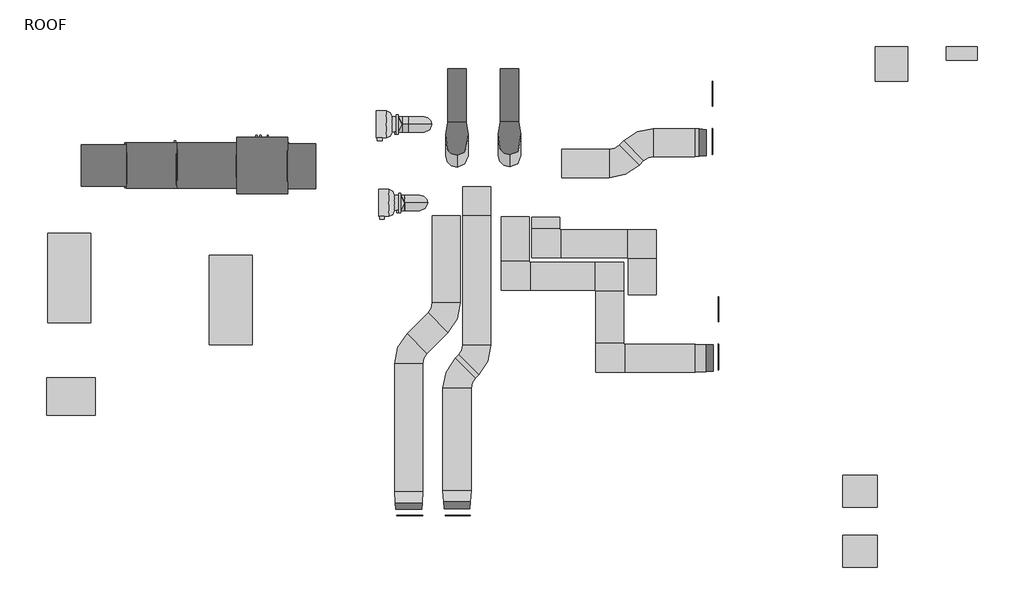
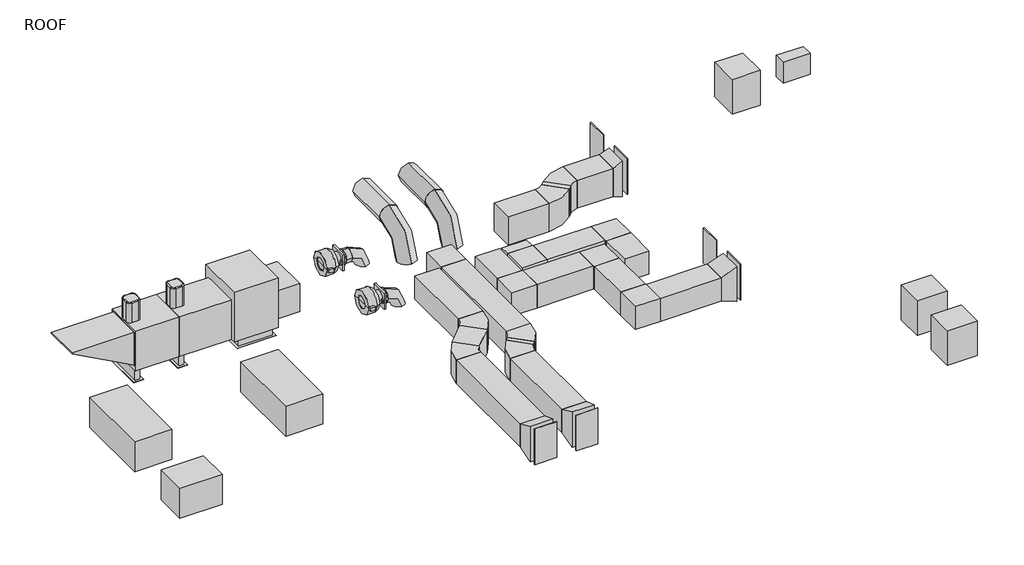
# One storey, incomplete: 30 duct fittings, 21 duct segments, 10 proxies.
"""IFC4 building model written with IfcOpenShell, lengths in millimetres."""

from ifc_helpers import new_model, si_unit, point, frame, frame_2d, origin, place, context, project, spatial, polyline, circle_curve, trimmed, segment, composite_curve, outline, extrude, transform, mapped, element, save
from components import mechanical_equipment_ae1ff904, mechanical_equipment_35da103f, mechanical_equipment_48eabea2, mechanical_equipment_9c06255b, mechanical_equipment_c8a8b973, proxy_50l_705_2dea56ad, rectangular_elbow_mitered_standard_6dab44a9, rectangular_elbow_radius_1_w_3c7c7018, rectangular_elbow_radius_1_w_218a5dfe, rectangular_transition_angle_45_degree_4fa393de, rectangular_transition_angle_45_degree_b09042f5, rectangular_transition_angle_45_degree_d7e84c4c, rectangular_transition_angle_45_degree_6e3a2386, rectangular_transition_angle_45_degree_c59788f5, rectangular_to_round_transition_angle_45_degree_81fe0fb5, round_elbow_1_d_b161354f, round_elbow_1_5_d_15854769, round_transition_angle_45_degree_63b79cef

model = new_model("IFC4")

# Units and contexts
model_context = context("Model", 3, world=origin())
ifc_project = project(units=[si_unit("LENGTHUNIT", "METRE", prefix="MILLI")], contexts=[model_context])

# Site, building, storey
site = spatial("IfcSite", under=ifc_project)
building = spatial("IfcBuilding", under=site)
storey = spatial("IfcBuildingStorey", under=building, Name="ROOF", Elevation=13106.4)

# Proxies
placement = place(None, origin())
mechanical_equipment_shape = mechanical_equipment_ae1ff904(model_context)
element("IfcBuildingElementProxy", 1, Name="CU - Trane - 10 Ton : CU - Trane - 10 Ton", ObjectType="CU - Trane - 10 Ton : CU - Trane - 10 Ton", at=placement, inside=storey, context=model_context, shape_type="MappedRepresentation", body=[
    mapped(mechanical_equipment_shape, transform((7390.4573033, 16492.6089798, 13106.4), x_axis=(0.0, 1.0, 0.0), y_axis=(-1.0, 0.0, 0.0), z_axis=(0.0, 0.0, 1.0))),
])
mechanical_equipment_2_shape = mechanical_equipment_35da103f(model_context)
element("IfcBuildingElementProxy", 2, Name="CU - Trane - 15-20 Ton : CU - Trane - 15-20 Ton", ObjectType="CU - Trane - 15-20 Ton : CU - Trane - 15-20 Ton", at=placement, inside=storey, context=model_context, shape_type="MappedRepresentation", body=[
    mapped(mechanical_equipment_2_shape, transform((11726.9880843, 19112.376747, 13106.4), x_axis=(1.0, 0.0, 0.0), y_axis=(0.0, 1.0, 0.0), z_axis=(0.0, 0.0, 1.0))),
])
element("IfcBuildingElementProxy", 3, Name="HP - Trane - 15-20 Ton : HP - Trane - 15-20 Ton", ObjectType="HP - Trane - 15-20 Ton : HP - Trane - 15-20 Ton", at=placement, inside=storey, context=model_context, shape_type="MappedRepresentation", body=[
    mapped(mechanical_equipment_2_shape, transform((7351.2740617, 19708.9402261, 13106.4), x_axis=(1.0, 0.0, 0.0), y_axis=(0.0, 1.0, 0.0), z_axis=(0.0, 0.0, 1.0))),
])
mechanical_equipment_3_shape = mechanical_equipment_48eabea2(model_context)
element("IfcBuildingElementProxy", 4, Name="HP - Trane - 4TWR5 : HP - Trane - 4TWR5", ObjectType="HP - Trane - 4TWR5 : HP - Trane - 4TWR5", at=placement, inside=storey, context=model_context, shape_type="MappedRepresentation", body=[
    mapped(mechanical_equipment_3_shape, transform((28805.4907802, 12287.5812077, 13103.225), x_axis=(1.0, 0.0, 0.0), y_axis=(0.0, 1.0, 0.0), z_axis=(0.0, 0.0, 1.0))),
])
element("IfcBuildingElementProxy", 5, Name="HP - Trane - 4TWR5 : HP - Trane - 4TWR5", ObjectType="HP - Trane - 4TWR5 : HP - Trane - 4TWR5", at=placement, inside=storey, context=model_context, shape_type="MappedRepresentation", body=[
    mapped(mechanical_equipment_3_shape, transform((28805.4907802, 13912.9500946, 13103.225), x_axis=(1.0, 0.0, 0.0), y_axis=(0.0, 1.0, 0.0), z_axis=(0.0, 0.0, 1.0))),
])
element("IfcBuildingElementProxy", 6, Name="HP - Trane - 4TWR5 : HP - Trane - 4TWR5", ObjectType="HP - Trane - 4TWR5 : HP - Trane - 4TWR5", at=placement, inside=storey, context=model_context, shape_type="MappedRepresentation", body=[
    mapped(mechanical_equipment_3_shape, transform((29662.1572413, 25514.2271337, 13103.225), x_axis=(0.0, -1.0, 0.0), y_axis=(1.0, 0.0, 0.0), z_axis=(0.0, 0.0, 1.0))),
])
mechanical_equipment_4_shape = mechanical_equipment_9c06255b(model_context)
element("IfcBuildingElementProxy", 7, Name="HP -SZ1H18D : HP -SZ1H18D", ObjectType="HP -SZ1H18D : HP -SZ1H18D", at=placement, inside=storey, context=model_context, shape_type="MappedRepresentation", body=[
    mapped(mechanical_equipment_4_shape, transform((31572.2, 25800.05, 13103.225), x_axis=(1.0, 0.0, 0.0), y_axis=(0.0, 1.0, 0.0), z_axis=(0.0, 0.0, 1.0))),
])
mechanical_equipment_5_shape = mechanical_equipment_c8a8b973(model_context)
element("IfcBuildingElementProxy", 8, Name="Heater-Direct_Fired_Packaged_Unit-CaptiveAire-Side_Discharge-Cooling_Coil : IHVBDFSAHCC-MPU_D.1000-920", ObjectType="Heater-Direct_Fired_Packaged_Unit-CaptiveAire-Side_Discharge-Cooling_Coil : IHVBDFSAHCC-MPU_D.1000-920", at=placement, inside=storey, context=model_context, shape_type="MappedRepresentation", body=[
    mapped(mechanical_equipment_5_shape, transform((10265.6655922, 22762.1872294, 13106.4), x_axis=(-1.0000000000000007, 0.0, 0.0), y_axis=(0.0, -1.000000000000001, 0.0), z_axis=(0.0, 0.0, 1.0000000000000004))),
])
proxy_50l_705_shape = proxy_50l_705_2dea56ad(model_context)
element("IfcBuildingElementProxy", 9, Name="Fan-Exhaust-CaptiveAire-Centrifugal_Upblast-Direct_Drive : 50L-705", ObjectType="Fan-Exhaust-CaptiveAire-Centrifugal_Upblast-Direct_Drive : 50L-705", at=placement, inside=storey, context=model_context, shape_type="MappedRepresentation", body=[
    mapped(proxy_50l_705_shape, transform((16231.1019459, 23975.0581183, 13608.05), x_axis=(0.0, 0.0, 1.0000000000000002), y_axis=(0.0, 1.0000000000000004, 0.0), z_axis=(-1.0000000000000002, 0.0, 0.0))),
])
element("IfcBuildingElementProxy", 10, Name="Fan-Exhaust-CaptiveAire-Centrifugal_Upblast-Direct_Drive : 50L-705", ObjectType="Fan-Exhaust-CaptiveAire-Centrifugal_Upblast-Direct_Drive : 50L-705", at=placement, inside=storey, context=model_context, shape_type="MappedRepresentation", body=[
    mapped(proxy_50l_705_shape, transform((16294.0223048, 21843.7524801, 13608.05), x_axis=(0.0, 0.0, 1.0000000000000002), y_axis=(0.0, 1.0000000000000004, 0.0), z_axis=(-1.0000000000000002, 0.0, 0.0))),
])

# Duct fittings
rectangular_elbow_mitered_standard_shape = rectangular_elbow_mitered_standard_6dab44a9(model_context)
element("IfcDuctFitting", 11, ObjectType="Rectangular Elbow - Mitered : Standard", at=placement, inside=storey, context=model_context, shape_type="MappedRepresentation", body=[
    mapped(rectangular_elbow_mitered_standard_shape, transform((22899.2550842, 20640.0328579, 13798.55), x_axis=(0.0, 1.0, 0.0), y_axis=(-1.0, 0.0, 0.0), z_axis=(0.0, 0.0, 1.0))),
])
element("IfcDuctFitting", 12, ObjectType="Rectangular Elbow - Mitered : Standard", at=placement, inside=storey, context=model_context, shape_type="MappedRepresentation", body=[
    mapped(rectangular_elbow_mitered_standard_shape, transform((22020.840723, 17533.0181136, 13798.55), x_axis=(0.0, -1.0, 0.0), y_axis=(1.0, 0.0, 0.0), z_axis=(0.0, 0.0, 1.0))),
])
element("IfcDuctFitting", 13, ObjectType="Rectangular Elbow - Mitered : Standard", at=placement, inside=storey, context=model_context, shape_type="MappedRepresentation", body=[
    mapped(rectangular_elbow_mitered_standard_shape, transform((22020.840723, 19758.921102, 13798.55), x_axis=(0.0, 1.0, 0.0), y_axis=(-1.0, 0.0, 0.0), z_axis=(0.0, 0.0, 1.0))),
])
element("IfcDuctFitting", 14, ObjectType="Rectangular Elbow - Mitered : Standard", at=placement, inside=storey, context=model_context, shape_type="MappedRepresentation", body=[
    mapped(rectangular_elbow_mitered_standard_shape, transform((20282.0928767, 20640.0328579, 13798.55), x_axis=(0.0, -1.0, 0.0), y_axis=(1.0, 0.0, 0.0), z_axis=(0.0, 0.0, 1.0))),
])
element("IfcDuctFitting", 15, ObjectType="Rectangular Elbow - Mitered : Standard", at=placement, inside=storey, context=model_context, shape_type="MappedRepresentation", body=[
    mapped(rectangular_elbow_mitered_standard_shape, transform((19449.8841871, 19758.921102, 13798.55), x_axis=(0.0, -1.0, 0.0), y_axis=(1.0, 0.0, 0.0), z_axis=(0.0, 0.0, 1.0))),
])
element("IfcDuctFitting", 16, ObjectType="Rectangular Elbow - Mitered : Standard", at=placement, inside=storey, context=model_context, shape_type="MappedRepresentation", body=[
    mapped(rectangular_elbow_mitered_standard_shape, transform((18409.4301182, 21795.293068, 13798.55), x_axis=(0.0, 1.0, 0.0), y_axis=(0.0, 0.0, -1.0), z_axis=(-1.0, 0.0, 0.0))),
])
rectangular_elbow_radius_1_w_shape = rectangular_elbow_radius_1_w_3c7c7018(model_context)
element("IfcDuctFitting", 17, ObjectType="Rectangular Elbow - Radius : 1 W", at=placement, inside=storey, context=model_context, shape_type="MappedRepresentation", body=[
    mapped(rectangular_elbow_radius_1_w_shape, transform((22885.1212073, 23379.6715494, 13798.55), x_axis=(-1.0, 0.0, 0.0), y_axis=(0.0, -1.0, 0.0), z_axis=(0.0, 0.0, 1.0))),
])
element("IfcDuctFitting", 18, ObjectType="Rectangular Elbow - Radius : 1 W", at=placement, inside=storey, context=model_context, shape_type="MappedRepresentation", body=[
    mapped(rectangular_elbow_radius_1_w_shape, transform((22319.7674323, 22814.3177743, 13798.55), x_axis=(1.0, 0.0, 0.0), y_axis=(0.0, 1.0, 0.0), z_axis=(0.0, 0.0, 1.0))),
])
rectangular_elbow_radius_1_w_2_shape = rectangular_elbow_radius_1_w_218a5dfe(model_context)
element("IfcDuctFitting", 19, ObjectType="Rectangular Elbow - Radius : 1 W", at=placement, inside=storey, context=model_context, shape_type="MappedRepresentation", body=[
    mapped(rectangular_elbow_radius_1_w_2_shape, transform((16561.4453378, 17699.4638218, 13798.55), x_axis=(-0.7071067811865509, -0.7071067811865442, 0.0), y_axis=(0.7071067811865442, -0.7071067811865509, 0.0), z_axis=(0.0, 0.0, 1.0))),
])
element("IfcDuctFitting", 20, ObjectType="Rectangular Elbow - Radius : 1 W", at=placement, inside=storey, context=model_context, shape_type="MappedRepresentation", body=[
    mapped(rectangular_elbow_radius_1_w_2_shape, transform((17870.6147509, 17032.9744471, 13798.55), x_axis=(-0.7071067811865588, -0.7071067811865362, 0.0), y_axis=(0.7071067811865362, -0.7071067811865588, 0.0), z_axis=(0.0, 0.0, 1.0))),
])
element("IfcDuctFitting", 21, ObjectType="Rectangular Elbow - Radius : 1 W", at=placement, inside=storey, context=model_context, shape_type="MappedRepresentation", body=[
    mapped(rectangular_elbow_radius_1_w_2_shape, transform((18409.4301182, 17571.7898144, 13798.55), x_axis=(0.7071067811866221, 0.7071067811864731, 0.0), y_axis=(-0.7071067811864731, 0.7071067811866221, 0.0), z_axis=(0.0, 0.0, 1.0))),
])
element("IfcDuctFitting", 22, ObjectType="Rectangular Elbow - Radius : 1 W", at=placement, inside=storey, context=model_context, shape_type="MappedRepresentation", body=[
    mapped(rectangular_elbow_radius_1_w_2_shape, transform((17579.5449279, 18717.563412, 13798.55), x_axis=(0.7071067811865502, 0.7071067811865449, 0.0), y_axis=(-0.7071067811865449, 0.7071067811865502, 0.0), z_axis=(0.0, 0.0, 1.0))),
])
rectangular_transition_angle_45_degree_shape = rectangular_transition_angle_45_degree_4fa393de(model_context)
element("IfcDuctFitting", 23, ObjectType="Rectangular Transition - Angle : 45 Degree", at=placement, inside=storey, context=model_context, shape_type="MappedRepresentation", body=[
    mapped(rectangular_transition_angle_45_degree_shape, transform((24815.7833087, 24706.8215494, 13792.99375), x_axis=(-1.0, 0.0, 0.0), y_axis=(0.0, -1.0, 0.0), z_axis=(0.0, 0.0, 1.0))),
])
element("IfcDuctFitting", 24, ObjectType="Rectangular Transition - Angle : 45 Degree", at=placement, inside=storey, context=model_context, shape_type="MappedRepresentation", body=[
    mapped(rectangular_transition_angle_45_degree_shape, transform((24973.5179241, 18860.1681136, 13792.99375), x_axis=(-1.0, 0.0, 0.0), y_axis=(0.0, -1.0, 0.0), z_axis=(0.0, 0.0, 1.0))),
])
element("IfcDuctFitting", 25, ObjectType="Rectangular Transition - Angle : 45 Degree", at=placement, inside=storey, context=model_context, shape_type="MappedRepresentation", body=[
    mapped(rectangular_transition_angle_45_degree_shape, transform((17888.5953378, 13254.0043808, 13792.99375), x_axis=(0.0, 1.0, 0.0), y_axis=(-1.0, 0.0, 0.0), z_axis=(0.0, 0.0, 1.0))),
])
rectangular_transition_angle_45_degree_2_shape = rectangular_transition_angle_45_degree_b09042f5(model_context)
element("IfcDuctFitting", 26, ObjectType="Rectangular Transition - Angle : 45 Degree", at=placement, inside=storey, context=model_context, shape_type="MappedRepresentation", body=[
    mapped(rectangular_transition_angle_45_degree_2_shape, transform((24815.7833087, 23409.0402994, 13792.99375), x_axis=(-1.0, 0.0, 0.0), y_axis=(0.0, -1.0, 0.0), z_axis=(0.0, 0.0, 1.0))),
])
element("IfcDuctFitting", 27, ObjectType="Rectangular Transition - Angle : 45 Degree", at=placement, inside=storey, context=model_context, shape_type="MappedRepresentation", body=[
    mapped(rectangular_transition_angle_45_degree_2_shape, transform((24973.5179241, 17562.3868636, 13792.99375), x_axis=(-1.0, 0.0, 0.0), y_axis=(0.0, -1.0, 0.0), z_axis=(0.0, 0.0, 1.0))),
])
element("IfcDuctFitting", 28, ObjectType="Rectangular Transition - Angle : 45 Degree", at=placement, inside=storey, context=model_context, shape_type="MappedRepresentation", body=[
    mapped(rectangular_transition_angle_45_degree_2_shape, transform((16590.8140878, 13254.0043808, 13792.99375), x_axis=(0.0, 1.0, 0.0), y_axis=(-1.0, 0.0, 0.0), z_axis=(0.0, 0.0, 1.0))),
])
rectangular_transition_angle_45_degree_3_shape = rectangular_transition_angle_45_degree_d7e84c4c(model_context)
element("IfcDuctFitting", 29, ObjectType="Rectangular Transition - Angle : 45 Degree", at=placement, inside=storey, context=model_context, shape_type="MappedRepresentation", body=[
    mapped(rectangular_transition_angle_45_degree_3_shape, transform((24330.2789596, 17533.0181136, 13798.55), x_axis=(1.0, 0.0, 0.0), y_axis=(0.0, 1.0, 0.0), z_axis=(0.0, 0.0, 1.0))),
])
element("IfcDuctFitting", 30, ObjectType="Rectangular Transition - Angle : 45 Degree", at=placement, inside=storey, context=model_context, shape_type="MappedRepresentation", body=[
    mapped(rectangular_transition_angle_45_degree_3_shape, transform((16561.4453378, 13914.8638218, 13798.55), x_axis=(0.0, -1.0, 0.0), y_axis=(1.0, 0.0, 0.0), z_axis=(0.0, 0.0, 1.0))),
])
rectangular_transition_angle_45_degree_4_shape = rectangular_transition_angle_45_degree_6e3a2386(model_context)
element("IfcDuctFitting", 31, ObjectType="Rectangular Transition - Angle : 45 Degree", at=placement, inside=storey, context=model_context, shape_type="MappedRepresentation", body=[
    mapped(rectangular_transition_angle_45_degree_4_shape, transform((17870.6147509, 13934.1744471, 13798.55), x_axis=(0.0, -1.0, 0.0), y_axis=(1.0, 0.0, 0.0), z_axis=(0.0, 0.0, 1.0))),
])
rectangular_transition_angle_45_degree_5_shape = rectangular_transition_angle_45_degree_c59788f5(model_context)
element("IfcDuctFitting", 32, ObjectType="Rectangular Transition - Angle : 45 Degree", at=placement, inside=storey, context=model_context, shape_type="MappedRepresentation", body=[
    mapped(rectangular_transition_angle_45_degree_5_shape, transform((24324.9443442, 23379.6715494, 13798.55), x_axis=(1.0, 0.0, 0.0), y_axis=(0.0, 1.0, 0.0), z_axis=(0.0, 0.0, 1.0))),
])
rectangular_to_round_transition_angle_45_degree_shape = rectangular_to_round_transition_angle_45_degree_81fe0fb5(model_context)
element("IfcDuctFitting", 33, ObjectType="Rectangular to Round Transition - Angle : 45 Degree", at=placement, inside=storey, context=model_context, shape_type="MappedRepresentation", body=[
    mapped(rectangular_to_round_transition_angle_45_degree_shape, transform((16344.8223048, 21742.1524801, 13608.05), x_axis=(1.0, 0.0, 0.0), y_axis=(0.0, 1.0, 0.0), z_axis=(0.0, 0.0, 1.0))),
])
element("IfcDuctFitting", 34, ObjectType="Rectangular to Round Transition - Angle : 45 Degree", at=placement, inside=storey, context=model_context, shape_type="MappedRepresentation", body=[
    mapped(rectangular_to_round_transition_angle_45_degree_shape, transform((16281.9019459, 23873.4581183, 13608.05), x_axis=(1.0, 0.0, 0.0), y_axis=(0.0, 1.0, 0.0), z_axis=(0.0, 0.0, 1.0))),
])
round_elbow_1_d_shape = round_elbow_1_d_b161354f(model_context)
element("IfcDuctFitting", 35, ObjectType="Round Elbow : 1 D", at=placement, inside=storey, context=model_context, shape_type="MappedRepresentation", body=[
    mapped(round_elbow_1_d_shape, transform((16864.6333005, 21742.1524801, 13608.05), x_axis=(0.0, 0.0, 1.0), y_axis=(-1.0, 0.0, 0.0), z_axis=(0.0, -1.0, 0.0))),
])
element("IfcDuctFitting", 36, ObjectType="Round Elbow : 1 D", at=placement, inside=storey, context=model_context, shape_type="MappedRepresentation", body=[
    mapped(round_elbow_1_d_shape, transform((16978.9333005, 23873.4581183, 13608.05), x_axis=(0.0, 0.0, 1.0), y_axis=(-1.0, 0.0, 0.0), z_axis=(0.0, -1.0, 0.0))),
])
round_elbow_1_5_d_shape = round_elbow_1_5_d_15854769(model_context)
element("IfcDuctFitting", 37, ObjectType="Round Elbow : 1.5 D", at=placement, inside=storey, context=model_context, shape_type="MappedRepresentation", body=[
    mapped(round_elbow_1_5_d_shape, transform((17870.4478422, 23020.0042983, 14446.25), x_axis=(0.0, -1.0, 0.0), y_axis=(0.0, 0.0, -1.0), z_axis=(1.0, 0.0, 0.0))),
])
element("IfcDuctFitting", 38, ObjectType="Round Elbow : 1.5 D", at=placement, inside=storey, context=model_context, shape_type="MappedRepresentation", body=[
    mapped(round_elbow_1_5_d_shape, transform((19297.1535131, 23027.9919267, 14446.25), x_axis=(0.0, -1.0, 0.0), y_axis=(0.0, 0.0, -1.0), z_axis=(1.0, 0.0, 0.0))),
])
round_transition_angle_45_degree_shape = round_transition_angle_45_degree_63b79cef(model_context)
element("IfcDuctFitting", 39, ObjectType="Round Transition - Angle : 45 Degree", at=placement, inside=storey, context=model_context, shape_type="MappedRepresentation", body=[
    mapped(round_transition_angle_45_degree_shape, transform((17870.4478422, 23945.9019904, 14446.25), x_axis=(0.0, -1.0, 0.0), y_axis=(1.0, 0.0, 0.0), z_axis=(0.0, 0.0, 1.0))),
])
element("IfcDuctFitting", 40, ObjectType="Round Transition - Angle : 45 Degree", at=placement, inside=storey, context=model_context, shape_type="MappedRepresentation", body=[
    mapped(round_transition_angle_45_degree_shape, transform((19297.1535131, 23953.8896188, 14446.25), x_axis=(0.0, -1.0, 0.0), y_axis=(1.0, 0.0, 0.0), z_axis=(0.0, 0.0, 1.0))),
])

# Duct segments
element("IfcDuctSegment", 41, ObjectType="Mitered Elbows / Taps", at=placement, inside=storey, context=model_context, shape_type="SweptSolid", body=[
    extrude(outline(polyline([(24324.9443442, 23760.6715494), (24324.9443442, 22998.6715494), (23200.7519418, 22998.6715494), (23200.7519418, 23760.6715494), (24324.9443442, 23760.6715494)])), frame((0.0, 0.0, 13341.35), z_axis=(0.0, 0.0, 1.0), x_axis=(1.0, 0.0, 0.0)), (0.0, 0.0, 1.0), 914.4),
])
element("IfcDuctSegment", 42, ObjectType="Mitered Elbows / Taps", at=placement, inside=storey, context=model_context, shape_type="SweptSolid", body=[
    extrude(outline(polyline([(20718.4440695, 22433.3177743), (20718.4440695, 23195.3177743), (22004.1366977, 23195.3177743), (22004.1366977, 22433.3177743), (20718.4440695, 22433.3177743)])), frame((0.0, 0.0, 13341.35), z_axis=(0.0, 0.0, 1.0), x_axis=(1.0, 0.0, 0.0)), (0.0, 0.0, 1.0), 914.4),
])
element("IfcDuctSegment", 43, ObjectType="Mitered Elbows / Taps", at=placement, inside=storey, context=model_context, shape_type="SweptSolid", body=[
    extrude(outline(polyline([(22392.5288909, 23425.8946002), (22931.3442582, 22887.079233), (22812.3597486, 22768.0947234), (22273.5443814, 23306.9100907), (22392.5288909, 23425.8946002)])), frame((0.0, 0.0, 13341.35), z_axis=(0.0, 0.0, 1.0), x_axis=(1.0, 0.0, 0.0)), (0.0, 0.0, 1.0), 914.4),
])
element("IfcDuctSegment", 44, ObjectType="Mitered Elbows / Taps", at=placement, inside=storey, context=model_context, shape_type="SweptSolid", body=[
    extrude(outline(polyline([(23280.2550842, 19250.6931136), (22518.2550842, 19250.6931136), (22518.2550842, 20233.6328579), (23280.2550842, 20233.6328579), (23280.2550842, 19250.6931136)])), frame((0.0, 0.0, 13417.55), z_axis=(0.0, 0.0, 1.0), x_axis=(1.0, 0.0, 0.0)), (0.0, 0.0, 1.0), 762.0),
])
element("IfcDuctSegment", 45, ObjectType="Mitered Elbows / Taps", at=placement, inside=storey, context=model_context, shape_type="SweptSolid", body=[
    extrude(outline(polyline([(22492.8550842, 21021.0328579), (22492.8550842, 20259.0328579), (20688.4928767, 20259.0328579), (20688.4928767, 21021.0328579), (22492.8550842, 21021.0328579)])), frame((0.0, 0.0, 13417.55), z_axis=(0.0, 0.0, 1.0), x_axis=(1.0, 0.0, 0.0)), (0.0, 0.0, 1.0), 762.0),
])
element("IfcDuctSegment", 46, ObjectType="Mitered Elbows / Taps", at=placement, inside=storey, context=model_context, shape_type="SweptSolid", body=[
    extrude(outline(polyline([(19901.0928767, 21359.494536), (20663.0928767, 21359.494536), (20663.0928767, 21046.4328579), (19901.0928767, 21046.4328579), (19901.0928767, 21359.494536)])), frame((0.0, 0.0, 13417.55), z_axis=(0.0, 0.0, 1.0), x_axis=(1.0, 0.0, 0.0)), (0.0, 0.0, 1.0), 762.0),
])
element("IfcDuctSegment", 47, ObjectType="Mitered Elbows / Taps", at=placement, inside=storey, context=model_context, shape_type="SweptSolid", body=[
    extrude(outline(polyline([(24330.2789596, 17914.0181136), (24330.2789596, 17152.0181136), (22427.240723, 17152.0181136), (22427.240723, 17914.0181136), (24330.2789596, 17914.0181136)])), frame((0.0, 0.0, 13417.55), z_axis=(0.0, 0.0, 1.0), x_axis=(1.0, 0.0, 0.0)), (0.0, 0.0, 1.0), 762.0),
])
element("IfcDuctSegment", 48, ObjectType="Mitered Elbows / Taps", at=placement, inside=storey, context=model_context, shape_type="SweptSolid", body=[
    extrude(outline(polyline([(22401.840723, 17939.4181136), (21639.840723, 17939.4181136), (21639.840723, 19352.521102), (22401.840723, 19352.521102), (22401.840723, 17939.4181136)])), frame((0.0, 0.0, 13417.55), z_axis=(0.0, 0.0, 1.0), x_axis=(1.0, 0.0, 0.0)), (0.0, 0.0, 1.0), 762.0),
])
element("IfcDuctSegment", 49, ObjectType="Mitered Elbows / Taps", at=placement, inside=storey, context=model_context, shape_type="SweptSolid", body=[
    extrude(outline(polyline([(21614.440723, 20139.921102), (21614.440723, 19377.921102), (19856.2841871, 19377.921102), (19856.2841871, 20139.921102), (21614.440723, 20139.921102)])), frame((0.0, 0.0, 13417.55), z_axis=(0.0, 0.0, 1.0), x_axis=(1.0, 0.0, 0.0)), (0.0, 0.0, 1.0), 762.0),
])
element("IfcDuctSegment", 50, ObjectType="Mitered Elbows / Taps", at=placement, inside=storey, context=model_context, shape_type="SweptSolid", body=[
    extrude(outline(polyline([(19068.8841871, 21367.1073473), (19830.8841871, 21367.1073473), (19830.8841871, 20165.321102), (19068.8841871, 20165.321102), (19068.8841871, 21367.1073473)])), frame((0.0, 0.0, 13417.55), z_axis=(0.0, 0.0, 1.0), x_axis=(1.0, 0.0, 0.0)), (0.0, 0.0, 1.0), 762.0),
])
element("IfcDuctSegment", 51, ObjectType="Mitered Elbows / Taps", at=placement, inside=storey, context=model_context, shape_type="SweptSolid", body=[
    extrude(outline(polyline([(17198.5449279, 21396.5058793), (17960.5449279, 21396.5058793), (17960.5449279, 19033.1941465), (17198.5449279, 19033.1941465), (17198.5449279, 21396.5058793)])), frame((0.0, 0.0, 13417.55), z_axis=(0.0, 0.0, 1.0), x_axis=(1.0, 0.0, 0.0)), (0.0, 0.0, 1.0), 762.0),
])
element("IfcDuctSegment", 52, ObjectType="Mitered Elbows / Taps", at=placement, inside=storey, context=model_context, shape_type="SweptSolid", body=[
    extrude(outline(polyline([(17086.9526116, 18763.7864629), (17625.7679788, 18224.9710956), (17054.0376542, 17653.2407709), (16515.2222869, 18192.0561382), (17086.9526116, 18763.7864629)])), frame((0.0, 0.0, 13417.55), z_axis=(0.0, 0.0, 1.0), x_axis=(1.0, 0.0, 0.0)), (0.0, 0.0, 1.0), 762.0),
])
element("IfcDuctSegment", 53, ObjectType="Mitered Elbows / Taps", at=placement, inside=storey, context=model_context, shape_type="SweptSolid", body=[
    extrude(outline(polyline([(16180.4453378, 17383.8330873), (16942.4453378, 17383.8330873), (16942.4453378, 13914.8638218), (16180.4453378, 13914.8638218), (16180.4453378, 17383.8330873)])), frame((0.0, 0.0, 13417.55), z_axis=(0.0, 0.0, 1.0), x_axis=(1.0, 0.0, 0.0)), (0.0, 0.0, 1.0), 762.0),
])
element("IfcDuctSegment", 54, ObjectType="Mitered Elbows / Taps", at=placement, inside=storey, context=model_context, shape_type="SweptSolid", body=[
    extrude(outline(polyline([(18028.4301182, 21388.893068), (18790.4301182, 21388.893068), (18790.4301182, 17887.4205489), (18028.4301182, 17887.4205489), (18028.4301182, 21388.893068)])), frame((0.0, 0.0, 13417.55), z_axis=(0.0, 0.0, 1.0), x_axis=(1.0, 0.0, 0.0)), (0.0, 0.0, 1.0), 762.0),
])
element("IfcDuctSegment", 55, ObjectType="Mitered Elbows / Taps", at=placement, inside=storey, context=model_context, shape_type="SweptSolid", body=[
    extrude(outline(polyline([(17916.8378018, 17618.0128653), (18455.6531691, 17079.197498), (18363.2070673, 16986.7513963), (17824.3917, 17525.5667635), (17916.8378018, 17618.0128653)])), frame((0.0, 0.0, 13417.55), z_axis=(0.0, 0.0, 1.0), x_axis=(1.0, 0.0, 0.0)), (0.0, 0.0, 1.0), 762.0),
])
element("IfcDuctSegment", 56, ObjectType="Mitered Elbows / Taps", at=placement, inside=storey, context=model_context, shape_type="SweptSolid", body=[
    extrude(outline(polyline([(17489.6147509, 16717.3437126), (18251.6147509, 16717.3437126), (18251.6147509, 13934.1744471), (17489.6147509, 13934.1744471), (17489.6147509, 16717.3437126)])), frame((0.0, 0.0, 13417.55), z_axis=(0.0, 0.0, 1.0), x_axis=(1.0, 0.0, 0.0)), (0.0, 0.0, 1.0), 762.0),
])
element("IfcDuctSegment", 57, ObjectType="Mitered Elbows / Taps", at=placement, inside=storey, context=model_context, shape_type="SweptSolid", body=[
    extrude(outline(polyline([(13272.3905922, 22133.5372294), (13272.3905922, 23352.7372294), (14034.3905922, 23352.7372294), (14034.3905922, 22133.5372294), (13272.3905922, 22133.5372294)])), frame((0.0, 0.0, 13668.375), z_axis=(0.0, 0.0, 1.0), x_axis=(1.0, 0.0, 0.0)), (0.0, 0.0, 1.0), 914.4),
])
element("IfcDuctSegment", 58, ObjectType="Taps", at=placement, inside=storey, context=model_context, shape_type="SweptSolid", body=[
    extrude(outline(composite_curve([segment(trimmed(circle_curve(frame_2d((14446.25, 17870.4478422)), 309.5625), [point((14446.25, 18180.0103422))], [point((14755.8125, 17870.4478422))], False, "CARTESIAN"), True, "CONTINUOUS"), segment(trimmed(circle_curve(frame_2d((14446.25, 17870.4478422)), 309.5625), [point((14755.8125, 17870.4478422))], [point((14446.25, 17560.8853422))], False, "CARTESIAN"), True, "CONTINUOUS"), segment(trimmed(circle_curve(frame_2d((14446.25, 17870.4478422)), 309.5625), [point((14446.25, 17560.8853422))], [point((14136.6875, 17870.4478422))], False, "CARTESIAN"), True, "CONTINUOUS"), segment(trimmed(circle_curve(frame_2d((14446.25, 17870.4478422)), 309.5625), [point((14136.6875, 17870.4478422))], [point((14446.25, 18180.0103422))], False, "CARTESIAN"), True, "CONTINUOUS")], self_intersect=False)), frame((0.0, 23945.9019904, 0.0), z_axis=(0.0, 1.0, 0.0), x_axis=(0.0, 0.0, 1.0)), (0.0, 0.0, 1.0), 1437.9399364),
])
element("IfcDuctSegment", 59, ObjectType="Taps", at=placement, inside=storey, context=model_context, shape_type="SweptSolid", body=[
    extrude(outline(composite_curve([segment(trimmed(circle_curve(frame_2d((14446.25, 19297.1535131)), 309.5625), [point((14446.25, 18987.5910131))], [point((14136.6875, 19297.1535131))], False, "CARTESIAN"), True, "CONTINUOUS"), segment(trimmed(circle_curve(frame_2d((14446.25, 19297.1535131)), 309.5625), [point((14136.6875, 19297.1535131))], [point((14446.25, 19606.7160131))], False, "CARTESIAN"), True, "CONTINUOUS"), segment(trimmed(circle_curve(frame_2d((14446.25, 19297.1535131)), 309.5625), [point((14446.25, 19606.7160131))], [point((14755.8125, 19297.1535131))], False, "CARTESIAN"), True, "CONTINUOUS"), segment(trimmed(circle_curve(frame_2d((14446.25, 19297.1535131)), 309.5625), [point((14755.8125, 19297.1535131))], [point((14446.25, 18987.5910131))], False, "CARTESIAN"), True, "CONTINUOUS")], self_intersect=False)), frame((0.0, 23953.8896188, 0.0), z_axis=(0.0, 1.0, 0.0), x_axis=(0.0, 0.0, 1.0)), (0.0, 0.0, 1.0), 1429.9523079),
])
element("IfcDuctSegment", 60, ObjectType="Taps", at=placement, inside=storey, context=model_context, shape_type="SweptSolid", body=[
    extrude(outline(composite_curve([segment(trimmed(circle_curve(frame_2d((21742.1524801, 13608.05)), 206.375), [point((21535.7774801, 13608.05))], [point((21742.1524801, 13814.425))], False, "CARTESIAN"), True, "CONTINUOUS"), segment(trimmed(circle_curve(frame_2d((21742.1524801, 13608.05)), 206.375), [point((21742.1524801, 13814.425))], [point((21948.5274801, 13608.05))], False, "CARTESIAN"), True, "CONTINUOUS"), segment(trimmed(circle_curve(frame_2d((21742.1524801, 13608.05)), 206.375), [point((21948.5274801, 13608.05))], [point((21742.1524801, 13401.675))], False, "CARTESIAN"), True, "CONTINUOUS"), segment(trimmed(circle_curve(frame_2d((21742.1524801, 13608.05)), 206.375), [point((21742.1524801, 13401.675))], [point((21535.7774801, 13608.05))], False, "CARTESIAN"), True, "CONTINUOUS")], self_intersect=False)), frame((16448.0098048, 0.0, 0.0), z_axis=(1.0, 0.0, 0.0), x_axis=(0.0, 1.0, 0.0)), (0.0, 0.0, 1.0), 3.8734957),
])
element("IfcDuctSegment", 61, ObjectType="Taps", at=placement, inside=storey, context=model_context, shape_type="SweptSolid", body=[
    extrude(outline(composite_curve([segment(trimmed(circle_curve(frame_2d((23873.4581183, 13608.05)), 206.375), [point((23667.0831183, 13608.05))], [point((23873.4581183, 13814.425))], False, "CARTESIAN"), True, "CONTINUOUS"), segment(trimmed(circle_curve(frame_2d((23873.4581183, 13608.05)), 206.375), [point((23873.4581183, 13814.425))], [point((24079.8331183, 13608.05))], False, "CARTESIAN"), True, "CONTINUOUS"), segment(trimmed(circle_curve(frame_2d((23873.4581183, 13608.05)), 206.375), [point((24079.8331183, 13608.05))], [point((23873.4581183, 13401.675))], False, "CARTESIAN"), True, "CONTINUOUS"), segment(trimmed(circle_curve(frame_2d((23873.4581183, 13608.05)), 206.375), [point((23873.4581183, 13401.675))], [point((23667.0831183, 13608.05))], False, "CARTESIAN"), True, "CONTINUOUS")], self_intersect=False)), frame((16385.0894459, 0.0, 0.0), z_axis=(1.0, 0.0, 0.0), x_axis=(0.0, 1.0, 0.0)), (0.0, 0.0, 1.0), 181.0938546),
])

save(model, "model.ifc")
